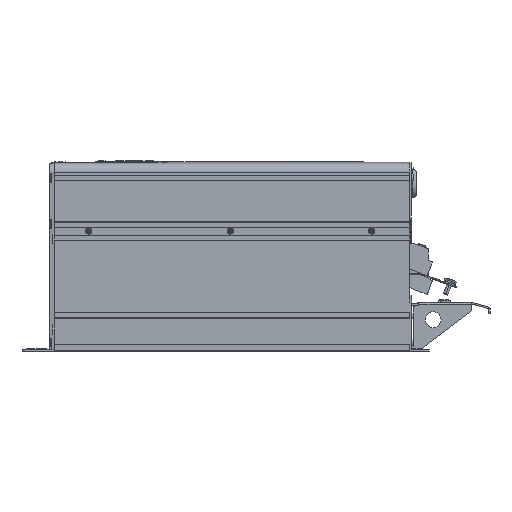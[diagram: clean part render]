
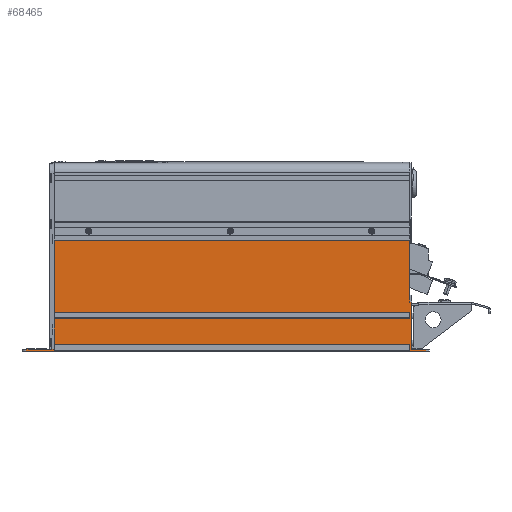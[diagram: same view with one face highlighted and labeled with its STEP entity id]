
A CAD part, left-side view. The second image highlights one B-rep face of the part: STEP entity #68465.
In plain terms, the highlighted planar face has unit normal (-1, 0, 0).
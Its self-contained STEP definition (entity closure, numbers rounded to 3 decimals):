
#1705=DIRECTION('',(0.,0.,1.));
#1706=VECTOR('',#1705,8.);
#1707=CARTESIAN_POINT('',(-115.,-227.95,1.1));
#1708=LINE('',#1707,#1706);
#1729=DIRECTION('',(0.,0.,1.));
#1730=VECTOR('',#1729,6.6);
#1731=CARTESIAN_POINT('',(-115.,-227.95,42.1));
#1732=LINE('',#1731,#1730);
#2159=DIRECTION('',(0.,0.,1.));
#2160=VECTOR('',#2159,78.6);
#2161=CARTESIAN_POINT('',(-115.,-227.95,62.5));
#2162=LINE('',#2161,#2160);
#3877=DIRECTION('',(0.,-1.,0.));
#3878=VECTOR('',#3877,36.);
#3879=CARTESIAN_POINT('',(-115.,259.75,0.));
#3880=LINE('',#3879,#3878);
#3921=DIRECTION('',(0.,-1.,0.));
#3922=VECTOR('',#3921,460.);
#3923=CARTESIAN_POINT('',(-115.,211.75,0.));
#3924=LINE('',#3923,#3922);
#4049=DIRECTION('',(0.,1.,0.));
#4050=VECTOR('',#4049,12.);
#4051=CARTESIAN_POINT('',(-115.,211.75,1.));
#4052=LINE('',#4051,#4050);
#4053=DIRECTION('',(0.,0.,1.));
#4054=VECTOR('',#4053,1.);
#4055=CARTESIAN_POINT('',(-115.,223.75,0.));
#4056=LINE('',#4055,#4054);
#4057=DIRECTION('',(0.,-1.,0.));
#4058=VECTOR('',#4057,451.7);
#4059=CARTESIAN_POINT('',(-115.,223.75,1.1));
#4060=LINE('',#4059,#4058);
#4061=DIRECTION('',(0.,-1.,0.));
#4062=VECTOR('',#4061,451.7);
#4063=CARTESIAN_POINT('',(-115.,223.75,9.1));
#4064=LINE('',#4063,#4062);
#4065=DIRECTION('',(0.,0.,-1.));
#4066=VECTOR('',#4065,12.4);
#4067=CARTESIAN_POINT('',(-115.,223.75,21.5));
#4068=LINE('',#4067,#4066);
#4069=DIRECTION('',(0.,0.,-1.));
#4070=VECTOR('',#4069,8.6);
#4071=CARTESIAN_POINT('',(-115.,223.75,42.1));
#4072=LINE('',#4071,#4070);
#4073=DIRECTION('',(0.,-1.,0.));
#4074=VECTOR('',#4073,451.7);
#4075=CARTESIAN_POINT('',(-115.,223.75,42.1));
#4076=LINE('',#4075,#4074);
#4077=DIRECTION('',(0.,-1.,0.));
#4078=VECTOR('',#4077,451.7);
#4079=CARTESIAN_POINT('',(-115.,223.75,48.7));
#4080=LINE('',#4079,#4078);
#4081=DIRECTION('',(0.,0.,-1.));
#4082=VECTOR('',#4081,87.8);
#4083=CARTESIAN_POINT('',(-115.,223.75,136.5));
#4084=LINE('',#4083,#4082);
#4085=DIRECTION('',(0.,-1.,0.));
#4086=VECTOR('',#4085,451.7);
#4087=CARTESIAN_POINT('',(-115.,223.75,141.1));
#4088=LINE('',#4087,#4086);
#4089=DIRECTION('',(0.,-1.,0.));
#4090=VECTOR('',#4089,2.5);
#4091=CARTESIAN_POINT('',(-115.,-227.95,62.5));
#4092=LINE('',#4091,#4090);
#4093=DIRECTION('',(0.,0.,-1.));
#4094=VECTOR('',#4093,60.);
#4095=CARTESIAN_POINT('',(-115.,-230.45,62.5));
#4096=LINE('',#4095,#4094);
#4097=DIRECTION('',(0.,-1.,0.));
#4098=VECTOR('',#4097,17.8);
#4099=CARTESIAN_POINT('',(-115.,-230.45,2.5));
#4100=LINE('',#4099,#4098);
#4101=DIRECTION('',(0.,0.,1.));
#4102=VECTOR('',#4101,2.5);
#4103=CARTESIAN_POINT('',(-115.,-248.25,0.));
#4104=LINE('',#4103,#4102);
#4105=DIRECTION('',(0.,0.,1.));
#4106=VECTOR('',#4105,1.);
#4107=CARTESIAN_POINT('',(-115.,211.75,0.));
#4108=LINE('',#4107,#4106);
#4193=DIRECTION('',(0.,0.,-1.));
#4194=VECTOR('',#4193,12.);
#4195=CARTESIAN_POINT('',(-115.,223.75,33.5));
#4196=LINE('',#4195,#4194);
#4395=DIRECTION('',(0.,0.,-1.));
#4396=VECTOR('',#4395,4.6);
#4397=CARTESIAN_POINT('',(-115.,223.75,141.1));
#4398=LINE('',#4397,#4396);
#4455=DIRECTION('',(0.,0.,1.));
#4456=VECTOR('',#4455,1.4);
#4457=CARTESIAN_POINT('',(-115.,223.75,1.1));
#4458=LINE('',#4457,#4456);
#9518=DIRECTION('',(0.,1.,0.));
#9519=VECTOR('',#9518,33.);
#9520=CARTESIAN_POINT('',(-115.,226.75,2.5));
#9521=LINE('',#9520,#9519);
#15463=DIRECTION('',(0.,1.,0.));
#15464=VECTOR('',#15463,3.);
#15465=CARTESIAN_POINT('',(-115.,223.75,2.5));
#15466=LINE('',#15465,#15464);
#35812=DIRECTION('',(0.,0.,1.));
#35813=VECTOR('',#35812,2.5);
#35814=CARTESIAN_POINT('',(-115.,259.75,0.));
#35815=LINE('',#35814,#35813);
#52630=CARTESIAN_POINT('',(-115.,223.75,136.5));
#52631=VERTEX_POINT('',#52630);
#52702=CARTESIAN_POINT('',(-115.,223.75,21.5));
#52704=VERTEX_POINT('',#52702);
#52706=CARTESIAN_POINT('',(-115.,223.75,33.5));
#52708=VERTEX_POINT('',#52706);
#55219=CARTESIAN_POINT('',(-115.,223.75,9.1));
#55220=VERTEX_POINT('',#55219);
#55231=CARTESIAN_POINT('',(-115.,223.75,141.1));
#55232=VERTEX_POINT('',#55231);
#55243=CARTESIAN_POINT('',(-115.,-227.95,141.1));
#55244=VERTEX_POINT('',#55243);
#55307=CARTESIAN_POINT('',(-115.,259.75,0.));
#55309=VERTEX_POINT('',#55307);
#55317=CARTESIAN_POINT('',(-115.,259.75,2.5));
#55319=VERTEX_POINT('',#55317);
#55325=CARTESIAN_POINT('',(-115.,226.75,2.5));
#55326=VERTEX_POINT('',#55325);
#55331=CARTESIAN_POINT('',(-115.,223.75,1.1));
#55332=CARTESIAN_POINT('',(-115.,223.75,2.5));
#55333=VERTEX_POINT('',#55331);
#55334=VERTEX_POINT('',#55332);
#55363=CARTESIAN_POINT('',(-115.,-227.95,1.1));
#55364=CARTESIAN_POINT('',(-115.,-227.95,9.1));
#55365=VERTEX_POINT('',#55363);
#55366=VERTEX_POINT('',#55364);
#55403=CARTESIAN_POINT('',(-115.,-248.25,2.5));
#55405=VERTEX_POINT('',#55403);
#55409=CARTESIAN_POINT('',(-115.,-248.25,0.));
#55410=VERTEX_POINT('',#55409);
#55419=CARTESIAN_POINT('',(-115.,-230.45,2.5));
#55420=VERTEX_POINT('',#55419);
#55459=CARTESIAN_POINT('',(-115.,-227.95,62.5));
#55460=CARTESIAN_POINT('',(-115.,-230.45,62.5));
#55461=VERTEX_POINT('',#55459);
#55462=VERTEX_POINT('',#55460);
#56727=CARTESIAN_POINT('',(-115.,223.75,48.7));
#56728=VERTEX_POINT('',#56727);
#56733=CARTESIAN_POINT('',(-115.,223.75,42.1));
#56734=VERTEX_POINT('',#56733);
#56743=CARTESIAN_POINT('',(-115.,-227.95,42.1));
#56744=CARTESIAN_POINT('',(-115.,-227.95,48.7));
#56745=VERTEX_POINT('',#56743);
#56746=VERTEX_POINT('',#56744);
#60938=CARTESIAN_POINT('',(-115.,211.75,1.));
#60939=CARTESIAN_POINT('',(-115.,223.75,1.));
#60940=VERTEX_POINT('',#60938);
#60941=VERTEX_POINT('',#60939);
#60942=CARTESIAN_POINT('',(-115.,211.75,0.));
#60943=VERTEX_POINT('',#60942);
#60944=CARTESIAN_POINT('',(-115.,223.75,0.));
#60945=VERTEX_POINT('',#60944);
#68415=CARTESIAN_POINT('',(-115.,223.75,227.));
#68416=DIRECTION('',(-1.,0.,0.));
#68417=DIRECTION('',(0.,0.,-1.));
#68418=AXIS2_PLACEMENT_3D('',#68415,#68416,#68417);
#68419=PLANE('',#68418);
#68421=ORIENTED_EDGE('',*,*,#68420,.T.);
#68422=ORIENTED_EDGE('',*,*,#68317,.F.);
#68423=ORIENTED_EDGE('',*,*,#68181,.F.);
#68425=ORIENTED_EDGE('',*,*,#68424,.T.);
#68427=ORIENTED_EDGE('',*,*,#68426,.F.);
#68429=ORIENTED_EDGE('',*,*,#68428,.F.);
#68431=ORIENTED_EDGE('',*,*,#68430,.F.);
#68433=ORIENTED_EDGE('',*,*,#68432,.T.);
#68434=ORIENTED_EDGE('',*,*,#63894,.T.);
#68436=ORIENTED_EDGE('',*,*,#68435,.F.);
#68438=ORIENTED_EDGE('',*,*,#68437,.F.);
#68440=ORIENTED_EDGE('',*,*,#68439,.F.);
#68442=ORIENTED_EDGE('',*,*,#68441,.F.);
#68444=ORIENTED_EDGE('',*,*,#68443,.T.);
#68445=ORIENTED_EDGE('',*,*,#63940,.T.);
#68447=ORIENTED_EDGE('',*,*,#68446,.F.);
#68449=ORIENTED_EDGE('',*,*,#68448,.F.);
#68451=ORIENTED_EDGE('',*,*,#68450,.F.);
#68453=ORIENTED_EDGE('',*,*,#68452,.T.);
#68454=ORIENTED_EDGE('',*,*,#64025,.F.);
#68456=ORIENTED_EDGE('',*,*,#68455,.T.);
#68457=ORIENTED_EDGE('',*,*,#63644,.T.);
#68458=ORIENTED_EDGE('',*,*,#68002,.T.);
#68459=ORIENTED_EDGE('',*,*,#68052,.F.);
#68460=ORIENTED_EDGE('',*,*,#68218,.F.);
#68462=ORIENTED_EDGE('',*,*,#68461,.T.);
#68463=EDGE_LOOP('',(#68421,#68422,#68423,#68425,#68427,#68429,#68431,#68433,
#68434,#68436,#68438,#68440,#68442,#68444,#68445,#68447,#68449,#68451,#68453,
#68454,#68456,#68457,#68458,#68459,#68460,#68462));
#68464=FACE_OUTER_BOUND('',#68463,.F.);
#68465=ADVANCED_FACE('',(#68464),#68419,.T.);
#63644=EDGE_CURVE('',#55462,#55420,#4096,.T.);
#63894=EDGE_CURVE('',#55365,#55366,#1708,.T.);
#63940=EDGE_CURVE('',#56745,#56746,#1732,.T.);
#64025=EDGE_CURVE('',#55461,#55244,#2162,.T.);
#68002=EDGE_CURVE('',#55420,#55405,#4100,.T.);
#68052=EDGE_CURVE('',#55410,#55405,#4104,.T.);
#68181=EDGE_CURVE('',#55309,#60945,#3880,.T.);
#68218=EDGE_CURVE('',#60943,#55410,#3924,.T.);
#68317=EDGE_CURVE('',#60945,#60941,#4056,.T.);
#68420=EDGE_CURVE('',#60940,#60941,#4052,.T.);
#68424=EDGE_CURVE('',#55309,#55319,#35815,.T.);
#68426=EDGE_CURVE('',#55326,#55319,#9521,.T.);
#68428=EDGE_CURVE('',#55334,#55326,#15466,.T.);
#68430=EDGE_CURVE('',#55333,#55334,#4458,.T.);
#68432=EDGE_CURVE('',#55333,#55365,#4060,.T.);
#68435=EDGE_CURVE('',#55220,#55366,#4064,.T.);
#68437=EDGE_CURVE('',#52704,#55220,#4068,.T.);
#68439=EDGE_CURVE('',#52708,#52704,#4196,.T.);
#68441=EDGE_CURVE('',#56734,#52708,#4072,.T.);
#68443=EDGE_CURVE('',#56734,#56745,#4076,.T.);
#68446=EDGE_CURVE('',#56728,#56746,#4080,.T.);
#68448=EDGE_CURVE('',#52631,#56728,#4084,.T.);
#68450=EDGE_CURVE('',#55232,#52631,#4398,.T.);
#68452=EDGE_CURVE('',#55232,#55244,#4088,.T.);
#68455=EDGE_CURVE('',#55461,#55462,#4092,.T.);
#68461=EDGE_CURVE('',#60943,#60940,#4108,.T.);
